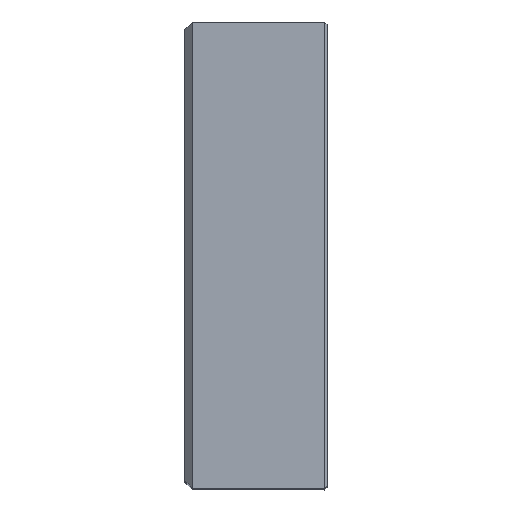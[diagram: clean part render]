
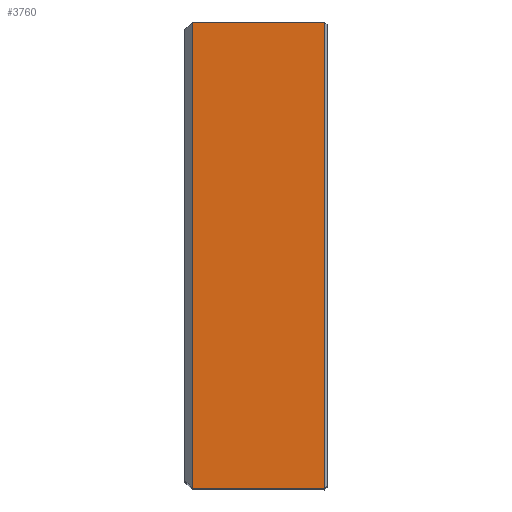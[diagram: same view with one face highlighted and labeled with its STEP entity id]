
A CAD part, top view. The second image highlights one B-rep face of the part: STEP entity #3760.
In plain terms, the highlighted planar face has unit normal (0, 0, 1).
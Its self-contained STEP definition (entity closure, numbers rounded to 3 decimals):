
#319=VERTEX_POINT(' ',#320);
#320=CARTESIAN_POINT('',(54.,-90.,0.));
#329=VERTEX_POINT(' ',#330);
#330=CARTESIAN_POINT('',(54.,90.,0.));
#363=VERTEX_POINT(' ',#364);
#364=CARTESIAN_POINT('',(3.,-90.,0.));
#371=VERTEX_POINT(' ',#372);
#372=CARTESIAN_POINT('',(3.,90.,0.));
#1813=LINE('',#1814,#1815);
#1814=CARTESIAN_POINT('',(54.,95.657,0.));
#1815=VECTOR('',#1816,1.);
#1816=DIRECTION('',(0.,-1.,0.));
#1817=EDGE_CURVE(' ',#329,#319,#1813,.T.);
#1977=LINE('',#1978,#1979);
#1978=CARTESIAN_POINT('',(55.12,-90.,0.));
#1979=VECTOR('',#1980,1.);
#1980=DIRECTION('',(-1.,0.,0.));
#1981=EDGE_CURVE(' ',#319,#363,#1977,.T.);
#2016=LINE('',#2017,#2018);
#2017=CARTESIAN_POINT('',(3.,-103.971,0.));
#2018=VECTOR('',#2019,1.);
#2019=DIRECTION('',(0.,1.,0.));
#2020=EDGE_CURVE(' ',#363,#371,#2016,.T.);
#2021=LINE('',#2022,#2023);
#2022=CARTESIAN_POINT('',(55.12,90.,0.));
#2023=VECTOR('',#2024,1.);
#2024=DIRECTION('',(-1.,0.,0.));
#2025=EDGE_CURVE(' ',#329,#371,#2021,.T.);
#3749=ORIENTED_EDGE('',*,*,#2020,.F.);
#3750=ORIENTED_EDGE('',*,*,#1981,.F.);
#3751=ORIENTED_EDGE('',*,*,#1817,.F.);
#3752=ORIENTED_EDGE('',*,*,#2025,.T.);
#3753=EDGE_LOOP('',(#3749,#3750,#3751,#3752));
#3754=FACE_OUTER_BOUND('',#3753,.T.);
#3755=PLANE('',#3756);
#3756=AXIS2_PLACEMENT_3D('',#3757,#3758,#3759);
#3757=CARTESIAN_POINT('',(0.,-90.,0.));
#3758=DIRECTION('',(0.,0.,1.));
#3759=DIRECTION('',(0.,1.,0.));
#3760=ADVANCED_FACE('',(#3754),#3755,.T.);
